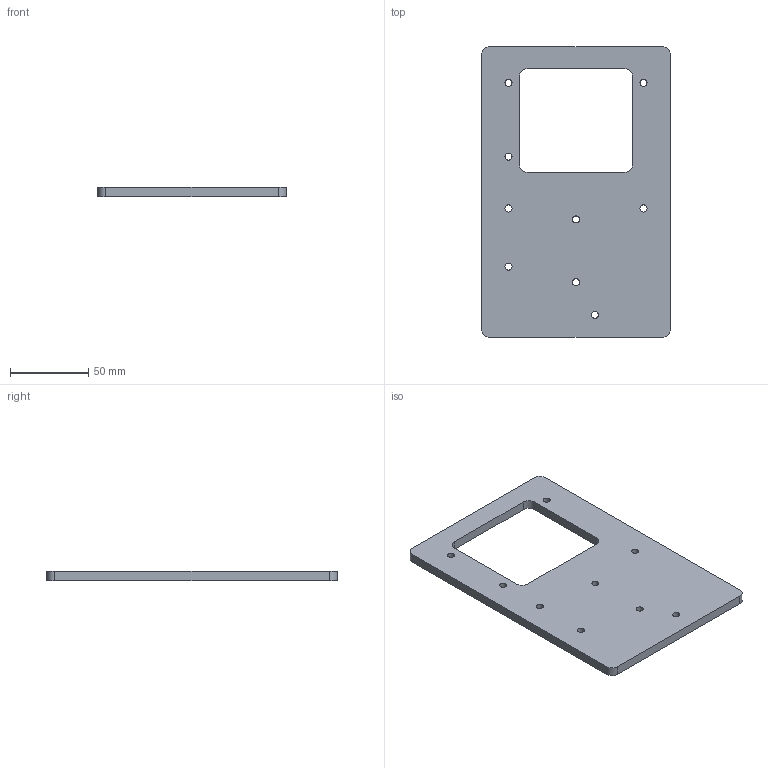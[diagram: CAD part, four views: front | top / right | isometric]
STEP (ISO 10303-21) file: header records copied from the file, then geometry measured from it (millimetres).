
FILE_DESCRIPTION(('Open CASCADE Model'),'2;1');
FILE_NAME('Open CASCADE Shape Model','2026-10-06T09:41:54',('Author'),( 'Open CASCADE'),'Open CASCADE STEP processor 7.8','Open CASCADE 7.8' ,'Unknown');
FILE_SCHEMA(('AUTOMOTIVE_DESIGN { 1 0 10303 214 1 1 1 1 }'));
Length unit declared in the file: millimetre
Products named in the file (1): Open CASCADE STEP translator 7.8 1
Bounding box: 120 x 185 x 6 mm (x, y, z)
Volume: 103829.2 mm3; surface area: 40586.1 mm2
Topology: 1 solids, 1 shells, 27 faces, 75 edges, 50 vertices
Faces by surface type: cylinder 17, plane 10
Full cylindrical faces by diameter (mm): 4.5 x9
Entity records: 1952 total; most frequent: CARTESIAN_POINT 439, DIRECTION 279, ORIENTED_EDGE 150, PCURVE 150, DEFINITIONAL_REPRESENTATION 150, LINE 141, VECTOR 141, EDGE_CURVE 75
